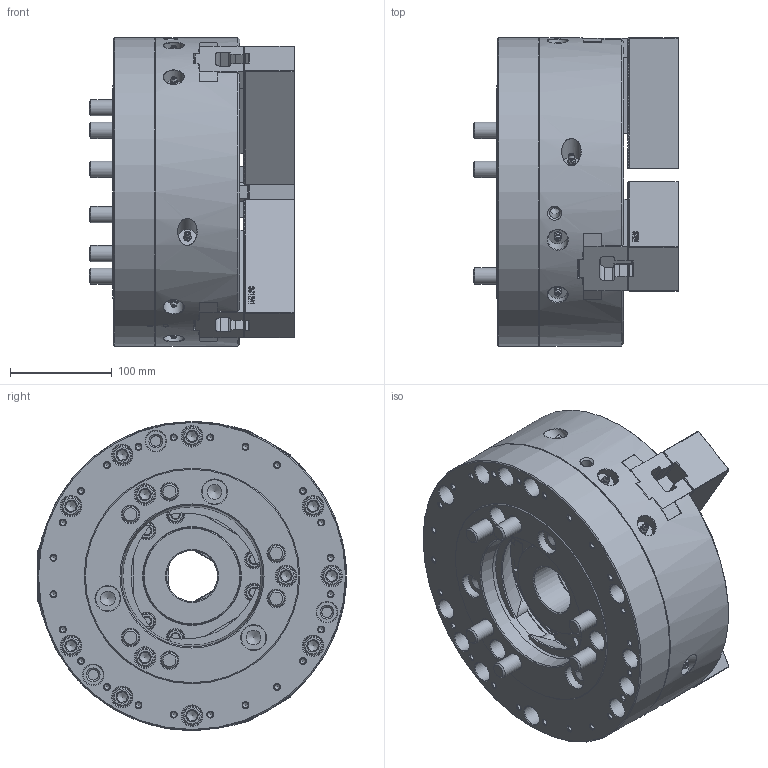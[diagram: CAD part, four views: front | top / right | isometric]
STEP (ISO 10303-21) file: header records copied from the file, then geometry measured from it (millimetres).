
FILE_DESCRIPTION (( 'STEP AP214' ), '1' );
FILE_NAME ('DT1_HOH-12K_OUTSIDE_VIEW_UC.STEP', '2024-05-09T05:13:22', ( '' ), ( '' ), 'SwSTEP 2.0', 'SolidWorks 2022', '' );
FILE_SCHEMA (( 'AUTOMOTIVE_DESIGN' ));
Length unit declared in the file: millimetre
Products named in the file (9): DT1_HOH-12K_COVER^DT1_HOH-12K_ﾃﾞﾌｫﾙﾄ; DT1_HOH-12K_SOFTJAW^DT1_HOH-12K_ﾃﾞﾌｫﾙﾄ; DT1_HOH-12K_TNUT^DT1_HOH-12K_ﾃﾞﾌｫﾙﾄ; DT1_HOH-12K_M14x45^DT1_HOH-12K_ﾃﾞﾌｫﾙﾄ; DT1_HOH-12K_M6x12^DT1_HOH-12K_ﾃﾞﾌｫﾙﾄ; DT1_HOH-12K_OUTSIDE_VIEW_UC; DT1_HOH-12K_M16x130^DT1_HOH-12K_ﾃﾞﾌｫﾙﾄ; DT1_HOH-12K_DRAWNUT^DT1_HOH-12K_ﾃﾞﾌｫﾙﾄ; Part3^DT1_HOH-12K_ﾃﾞﾌｫﾙﾄ
Assembly tree (24 placements, depth 2):
  DT1_HOH-12K_OUTSIDE_VIEW_UC
    DT1_HOH-12K_SOFTJAW^DT1_HOH-12K_ﾃﾞﾌｫﾙﾄ  x3
    DT1_HOH-12K_TNUT^DT1_HOH-12K_ﾃﾞﾌｫﾙﾄ  x3
    DT1_HOH-12K_DRAWNUT^DT1_HOH-12K_ﾃﾞﾌｫﾙﾄ
    DT1_HOH-12K_COVER^DT1_HOH-12K_ﾃﾞﾌｫﾙﾄ
    Part3^DT1_HOH-12K_ﾃﾞﾌｫﾙﾄ
    DT1_HOH-12K_M6x12^DT1_HOH-12K_ﾃﾞﾌｫﾙﾄ  x3
    DT1_HOH-12K_M14x45^DT1_HOH-12K_ﾃﾞﾌｫﾙﾄ  x6
    DT1_HOH-12K_M16x130^DT1_HOH-12K_ﾃﾞﾌｫﾙﾄ  x6
Bounding box: 202 x 304 x 304 mm (x, y, z)
Volume: 8986522.6 mm3; surface area: 797186.3 mm2
Topology: 24 solids, 30 shells, 5500 faces, 15479 edges, 10176 vertices
Faces by surface type: plane 4138, cylinder 682, cone 384, bspline 251, torus 36, sphere 9
Full cylindrical faces by diameter (mm): 2 x9, 5 x3, 5.2 x24, 6 x3, 6.6 x3, 10.22 x3, 10.3 x5, 11 x3, 12 x6, 14 x6, 15 x6, 16 x6, 16.27 x6, 17 x18, 18.27 x12, 19 x3, 20 x21, 21.33 x6, 22 x6, 24.21 x3, 24.33 x6, 25 x6, 50 x1, 78 x1, 83 x2, 89 x1, 95.8 x2, 96 x3, 104.5 x2, 136 x1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
Entity records: 149317 total; most frequent: CARTESIAN_POINT 52565, ORIENTED_EDGE 21286, DIRECTION 17398, EDGE_CURVE 10643, VECTOR 7906, LINE 7906, VERTEX_POINT 7187, AXIS2_PLACEMENT_3D 4746
